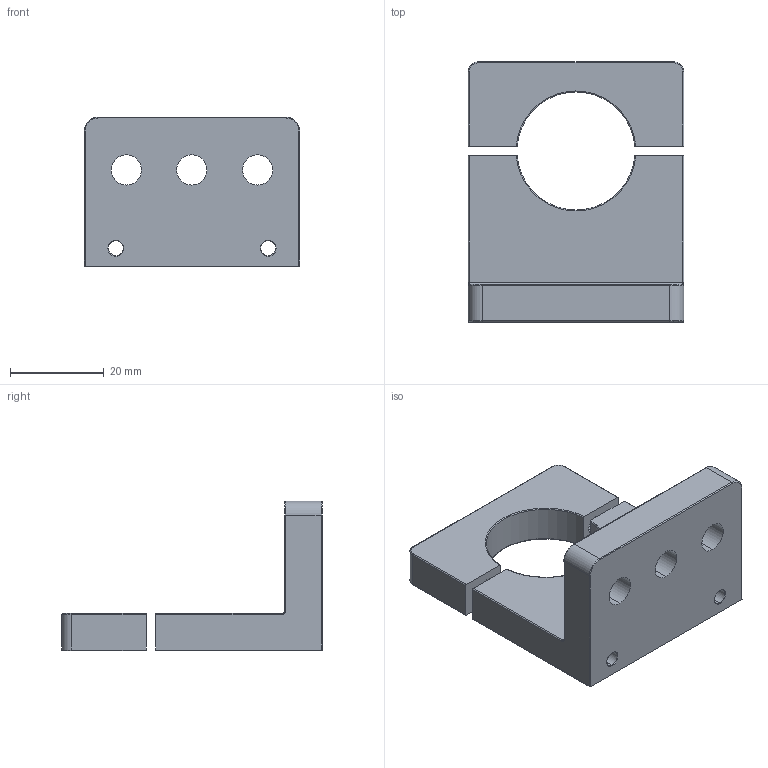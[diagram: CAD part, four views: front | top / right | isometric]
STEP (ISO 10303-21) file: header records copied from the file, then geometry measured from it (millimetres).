
FILE_DESCRIPTION (( 'STEP AP214' ), '1' );
FILE_NAME ('SH10 Bracket.STEP', '2026-09-02T19:17:56', ( '' ), ( '' ), 'SwSTEP 2.0', 'SolidWorks 2025', '' );
FILE_SCHEMA (( 'AUTOMOTIVE_DESIGN' ));
Length unit declared in the file: millimetre
Products named in the file (1): SH10 Bracket
Bounding box: 46 x 55.5 x 32 mm (x, y, z)
Volume: 22120.8 mm3; surface area: 10664 mm2
Topology: 2 solids, 2 shells, 104 faces, 241 edges, 148 vertices
Faces by surface type: cylinder 51, torus 26, plane 23, cone 4
Entity records: 3065 total; most frequent: DIRECTION 581, CARTESIAN_POINT 540, ORIENTED_EDGE 482, AXIS2_PLACEMENT_3D 245, EDGE_CURVE 241, VERTEX_POINT 148, CIRCLE 140, EDGE_LOOP 125
